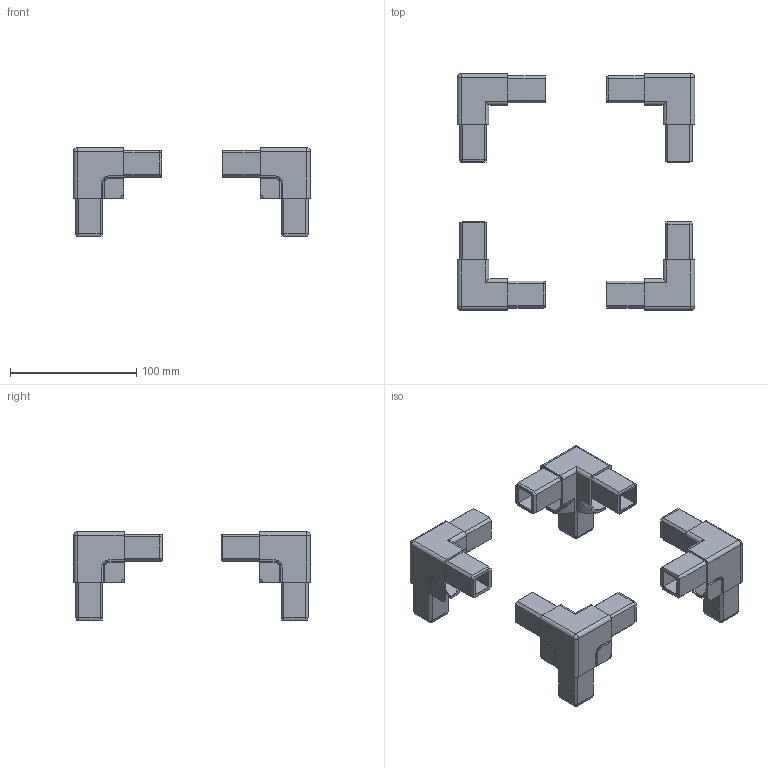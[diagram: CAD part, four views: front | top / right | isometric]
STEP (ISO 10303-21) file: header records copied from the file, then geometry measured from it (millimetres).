
FILE_DESCRIPTION (( 'STEP AP214' ), '1' );
FILE_NAME ('L15850 ENS.step', '2024-12-03T16:22:23', ( '' ), ( '' ), 'SwSTEP 2.0', 'SolidWorks 2023', '' );
FILE_SCHEMA (( 'AUTOMOTIVE_DESIGN' ));
Length unit declared in the file: millimetre
Products named in the file (2): L15850; L15850 ENS
Assembly tree (4 placements, depth 2):
  L15850 ENS
    L15850  x4
Bounding box: 187.83 x 187.44 x 70 mm (x, y, z)
Volume: 207733.7 mm3; surface area: 131885.7 mm2
Topology: 4 solids, 4 shells, 576 faces, 1652 edges, 1040 vertices
Faces by surface type: plane 480, cylinder 68, cone 16, torus 8, sphere 4
Entity records: 4669 total; most frequent: CARTESIAN_POINT 863, ORIENTED_EDGE 820, DIRECTION 730, EDGE_CURVE 410, VECTOR 364, LINE 364, VERTEX_POINT 260, AXIS2_PLACEMENT_3D 183
